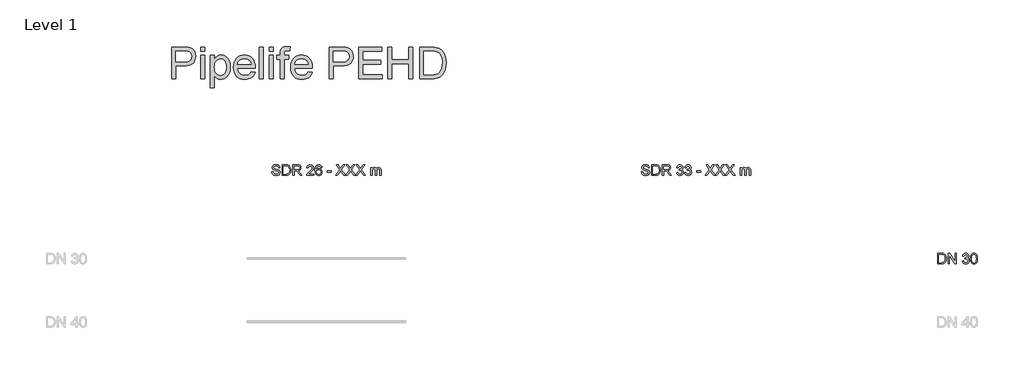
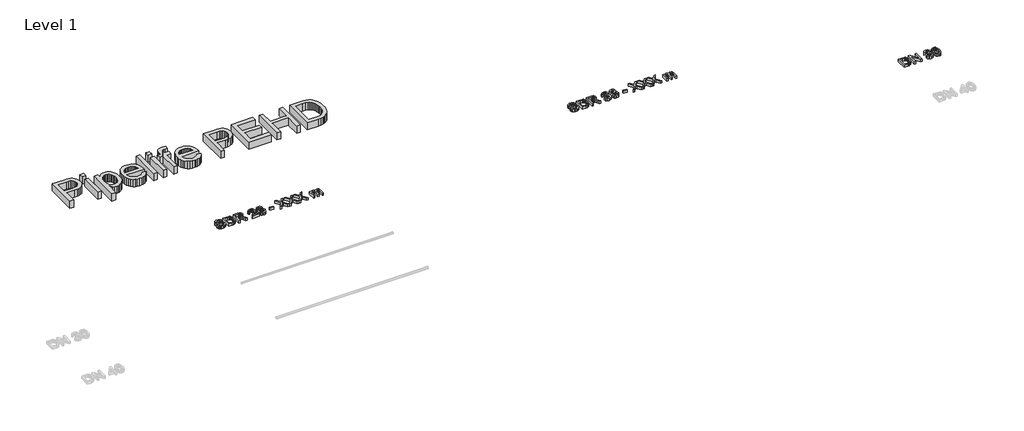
# One storey, part 4 of 4: 4 proxies.
"""IFC4 building model written with IfcOpenShell, lengths in millimetres."""

from ifc_helpers import new_model, si_unit, origin, origin_with_axes, place, context, project, spatial, polyline, outline, extrude, element, save

model = new_model("IFC4")

# Units and contexts
model_context = context("Model", 3, world=origin())
ifc_project = project(units=[si_unit("LENGTHUNIT", "METRE", prefix="MILLI")], contexts=[model_context])

# Site, building, storey
site = spatial("IfcSite", under=ifc_project)
building = spatial("IfcBuilding", under=site)
storey = spatial("IfcBuildingStorey", under=building, Name="Level 1", Elevation=0.0)

# Proxies
placement = place(None, origin())
element("IfcBuildingElementProxy", 1, Name="200mm Arial", ObjectType="200mm Arial", at=placement, inside=storey, context=model_context, shape_type="SweptSolid", body=[
    extrude(outline(polyline([(-15070.1924535, 2231.0128426), (-15045.0783759, 2231.0128426), (-15036.984972, 2205.8742396), (-15028.85478, 2196.983758), (-15017.2174462, 2189.9817374), (-15002.9926757, 2185.4383947), (-14987.1001735, 2183.9239472), (-14960.8579245, 2188.5102094), (-14943.9108273, 2201.1162991), (-14938.3435464, 2217.9652945), (-14942.5128757, 2233.6370675), (-14948.8649715, 2239.8358791), (-14959.5826003, 2245.0414093), (-14996.1500706, 2254.6308667), (-15035.5134441, 2267.0162272), (-15048.0153005, 2275.4652503), (-15056.8751253, 2285.7046325), (-15062.1542319, 2297.5136446), (-15063.9139341, 2310.6715573), (-15061.737299, 2325.3807057), (-15055.2073935, 2339.0965728), (-15044.4958961, 2350.7216438), (-15029.7744849, 2359.1584042), (-15012.1038864, 2364.2903581), (-14992.544827, 2366.0010093), (-14971.3548241, 2364.2106503), (-14952.8135716, 2358.8395732), (-14937.583257, 2349.9981425), (-14926.3260679, 2337.796723), (-14919.2014199, 2322.9956041), (-14916.3687286, 2306.3550752), (-14941.4828061, 2306.3550752), (-14946.0935938, 2321.3401351), (-14955.7075766, 2332.1558658), (-14970.7294247, 2338.7041653), (-14991.5638084, 2340.8869318), (-15012.8887014, 2338.7286908), (-15027.518142, 2332.2539676), (-15035.9794279, 2322.725824), (-15038.7998566, 2311.4073212), (-15036.8010311, 2301.7565502), (-15030.8045545, 2293.9942401), (-15016.628835, 2287.0535332), (-14989.7979748, 2279.9656734), (-14945.3578298, 2267.3595837), (-14931.0410888, 2258.2483729), (-14921.0530926, 2247.0034466), (-14915.1853748, 2233.7474321), (-14913.2294689, 2218.6029566), (-14915.4796804, 2203.121256), (-14922.230315, 2188.5592603), (-14933.2054612, 2176.026747), (-14948.1292075, 2166.6334934), (-14966.0757175, 2160.7657756), (-14986.1191548, 2158.8098696), (-15010.724329, 2160.9190598), (-15030.9762328, 2167.2466301), (-15047.1078583, 2177.8171061), (-15059.3521974, 2192.6550132), (-15067.2126093, 2210.7302819), (-15070.1924535, 2231.0128426)])), origin_with_axes(), (0.0, 0.0, 1.0), 50.0),
    extrude(outline(polyline([(-14875.5583526, 2161.9491293), (-14875.5583526, 2362.8617496), (-14806.2493847, 2362.8617496), (-14770.3931529, 2359.9677446), (-14754.3780234, 2354.388201), (-14740.8644914, 2345.5958213), (-14726.9708147, 2330.2919303), (-14717.074789, 2311.2601685), (-14711.1518889, 2288.8684177), (-14709.1775889, 2263.48456), (-14714.5241405, 2222.9439641), (-14728.2584017, 2193.6850828), (-14746.6034505, 2175.4626613), (-14770.6138821, 2165.3826946), (-14802.9139213, 2161.9491293), (-14875.5583526, 2161.9491293)]), holes=[polyline([(-14850.444275, 2187.0632069), (-14806.00413, 2187.0632069), (-14773.6795654, 2190.6929759), (-14755.0402109, 2200.9446208), (-14746.3152763, 2211.8155338), (-14739.7608454, 2225.8870201), (-14735.6589612, 2243.2203934), (-14734.2916664, 2263.8769675), (-14736.9710736, 2291.2473879), (-14745.0092952, 2311.4563722), (-14756.8857523, 2325.3377861), (-14771.0798659, 2333.7254956), (-14806.6908431, 2337.7476721), (-14850.444275, 2337.7476721), (-14850.444275, 2187.0632069)])]), origin_with_axes(), (0.0, 0.0, 1.0), 50.0),
    extrude(outline(polyline([(-14674.6457323, 2161.9491293), (-14674.6457323, 2362.8617496), (-14588.0708361, 2362.8617496), (-14564.8022999, 2361.5067176), (-14547.8735967, 2357.4416216), (-14535.500499, 2349.9368289), (-14525.8987789, 2338.2627069), (-14519.7367555, 2323.7865504), (-14517.6827477, 2307.8756541), (-14521.0856561, 2288.0836028), (-14531.2943815, 2271.6760658), (-14548.6154921, 2259.6463245), (-14573.3555563, 2252.9876604), (-14559.0817348, 2242.2455062), (-14538.7255978, 2216.3956646), (-14505.2238108, 2161.9491293), (-14534.4091157, 2161.9491293), (-14560.5532628, 2203.5933712), (-14579.4378719, 2231.1599954), (-14592.7061492, 2244.183018), (-14604.6500513, 2248.9654839), (-14619.2181783, 2249.8484007), (-14649.5316547, 2249.8484007), (-14649.5316547, 2161.9491293), (-14674.6457323, 2161.9491293)]), holes=[polyline([(-14649.5316547, 2274.9624783), (-14593.3192859, 2274.9624783), (-14564.6490157, 2278.5186709), (-14555.2189739, 2283.1417213), (-14548.3641061, 2289.8984873), (-14542.7968252, 2306.9436864), (-14545.4517069, 2319.1941568), (-14553.4163521, 2329.065657), (-14567.1199564, 2335.5771683), (-14586.9917155, 2337.7476721), (-14649.5316547, 2337.7476721), (-14649.5316547, 2274.9624783)])]), origin_with_axes(), (0.0, 0.0, 1.0), 50.0),
    extrude(outline(polyline([(-14275.9597514, 2187.0632069), (-14275.9597514, 2161.9491293), (-14407.8086584, 2161.9491293), (-14405.1108571, 2179.2641086), (-14389.8560171, 2205.9232905), (-14358.4143692, 2235.0350191), (-14315.0533447, 2276.8754646), (-14306.9231526, 2291.2964388), (-14304.2130886, 2305.3250056), (-14306.7698685, 2317.9004385), (-14314.4402081, 2328.3544185), (-14326.230826, 2335.3993587), (-14341.1484409, 2337.7476721), (-14356.8140825, 2335.454541), (-14368.9848452, 2328.5751477), (-14376.8391258, 2317.6490524), (-14379.5553212, 2303.2158155), (-14404.6693987, 2306.3550752), (-14398.5809517, 2330.6475496), (-14385.4169077, 2348.3917245), (-14365.8639796, 2359.2442434), (-14340.6088806, 2362.8617496), (-14315.1698407, 2358.8395732), (-14295.6537008, 2346.7730437), (-14283.2376835, 2328.746826), (-14279.0990111, 2306.8455845), (-14283.5626459, 2283.0313567), (-14298.4005531, 2258.4077885), (-14334.3794122, 2223.9985592), (-14363.2704115, 2199.8409748), (-14374.601177, 2187.0632069), (-14275.9597514, 2187.0632069)])), origin_with_axes(), (0.0, 0.0, 1.0), 50.0),
    extrude(outline(polyline([(-14122.1360264, 2309.4943349), (-14147.250104, 2306.3550752), (-14156.7659849, 2327.2998234), (-14168.158064, 2335.1357099), (-14181.9291134, 2337.7476721), (-14204.5906443, 2331.6653565), (-14214.0268175, 2322.057505), (-14221.7339453, 2308.8321473), (-14226.9394755, 2290.1253478), (-14228.870856, 2264.0731712), (-14218.7970207, 2275.8270009), (-14206.7243599, 2284.1104772), (-14193.3273239, 2289.0217018), (-14179.280363, 2290.6587767), (-14156.0792719, 2286.1828791), (-14136.6060516, 2272.7551863), (-14123.399088, 2252.2396337), (-14118.9967668, 2226.5001568), (-14121.0691687, 2208.5168586), (-14127.2863744, 2191.8456728), (-14137.1333491, 2177.7067415), (-14150.0950581, 2167.3202065), (-14165.5828901, 2160.9374539), (-14183.0082339, 2158.8098696), (-14211.5006944, 2164.4507269), (-14234.1928822, 2181.3732987), (-14242.8519046, 2194.4821604), (-14249.0369207, 2211.2453167), (-14253.9849335, 2255.7345126), (-14248.4912291, 2305.7542013), (-14241.6240985, 2324.8319484), (-14232.0101157, 2339.9549641), (-14221.5898582, 2349.9766828), (-14209.5080003, 2357.1350532), (-14180.3594835, 2362.8617496), (-14158.323352, 2359.3178198), (-14140.677279, 2348.6860301), (-14128.316444, 2331.8002465), (-14122.1360264, 2309.4943349)]), holes=[polyline([(-14228.870856, 2226.8925642), (-14223.0583205, 2205.1384756), (-14207.6072767, 2189.3440752), (-14184.9702712, 2183.9239472), (-14168.3971873, 2186.7321131), (-14155.3680333, 2195.1566108), (-14146.9251416, 2208.4003626), (-14144.1108443, 2225.6662909), (-14146.8883534, 2242.2393748), (-14155.2208805, 2254.8761213), (-14168.4707637, 2262.8775547), (-14186.0003408, 2265.5446992), (-14202.5488992, 2262.8775547), (-14216.3873936, 2254.8761213), (-14225.7499904, 2242.5459431), (-14228.870856, 2226.8925642)])]), origin_with_axes(), (0.0, 0.0, 1.0), 50.0),
    extrude(outline(polyline([(-14024.818976, 2221.5950635), (-14024.818976, 2246.709141), (-13946.3374837, 2246.709141), (-13946.3374837, 2221.5950635), (-14024.818976, 2221.5950635)])), origin_with_axes(), (0.0, 0.0, 1.0), 50.0),
    extrude(outline(polyline([(-13858.4382123, 2161.9491293), (-13780.9867896, 2271.4308111), (-13845.8811735, 2362.8617496), (-13815.7639009, 2362.8617496), (-13779.220956, 2311.4073212), (-13766.9091719, 2291.3454898), (-13752.4881977, 2311.7506778), (-13716.3376603, 2362.8617496), (-13685.7789292, 2362.8617496), (-13750.6733132, 2271.1365055), (-13673.2218905, 2161.9491293), (-13703.3391631, 2161.9491293), (-13754.9407443, 2234.7407135), (-13765.6828986, 2249.8484007), (-13777.5041734, 2233.2691855), (-13827.8794812, 2161.9491293), (-13858.4382123, 2161.9491293)])), origin_with_axes(), (0.0, 0.0, 1.0), 50.0),
    extrude(outline(polyline([(-13670.0826308, 2161.9491293), (-13592.6312081, 2271.4308111), (-13657.525592, 2362.8617496), (-13627.4083193, 2362.8617496), (-13590.8653745, 2311.4073212), (-13578.5535904, 2291.3454898), (-13564.1326162, 2311.7506778), (-13527.9820788, 2362.8617496), (-13497.4233477, 2362.8617496), (-13562.3177316, 2271.1365055), (-13484.8663089, 2161.9491293), (-13514.9835816, 2161.9491293), (-13566.5851628, 2234.7407135), (-13577.3273171, 2249.8484007), (-13589.1485918, 2233.2691855), (-13639.5238997, 2161.9491293), (-13670.0826308, 2161.9491293)])), origin_with_axes(), (0.0, 0.0, 1.0), 50.0),
    extrude(outline(polyline([(-13481.7270492, 2161.9491293), (-13404.2756265, 2271.4308111), (-13469.1700105, 2362.8617496), (-13439.0527378, 2362.8617496), (-13402.5097929, 2311.4073212), (-13390.1980088, 2291.3454898), (-13375.7770346, 2311.7506778), (-13339.6264972, 2362.8617496), (-13309.0677662, 2362.8617496), (-13373.9621501, 2271.1365055), (-13296.5107274, 2161.9491293), (-13326.6280001, 2161.9491293), (-13378.2295813, 2234.7407135), (-13388.9717355, 2249.8484007), (-13400.7930103, 2233.2691855), (-13451.1683182, 2161.9491293), (-13481.7270492, 2161.9491293)])), origin_with_axes(), (0.0, 0.0, 1.0), 50.0),
    extrude(outline(polyline([(-13196.0544173, 2161.9491293), (-13196.0544173, 2309.4943349), (-13170.9403397, 2309.4943349), (-13170.9403397, 2285.2141232), (-13163.3864961, 2296.367079), (-13153.6744114, 2305.1042764), (-13142.1351795, 2310.751265), (-13129.0998941, 2312.6335946), (-13115.132641, 2310.7144768), (-13103.9367657, 2304.9571236), (-13095.5735816, 2295.7416796), (-13090.1044026, 2283.4482896), (-13080.9502723, 2296.2168605), (-13070.508555, 2305.3372683), (-13058.7792508, 2310.809513), (-13045.7623595, 2312.6335946), (-13026.8838818, 2309.5985681), (-13012.9227601, 2300.4934887), (-13004.2959273, 2285.0731018), (-13001.4203163, 2263.0921525), (-13001.4203163, 2161.9491293), (-13026.5343939, 2161.9491293), (-13026.5343939, 2252.3009474), (-13028.8643132, 2273.2702211), (-13037.3010736, 2283.5954424), (-13051.6484714, 2287.519517), (-13065.2539739, 2285.0056567), (-13076.345616, 2277.4640758), (-13083.72165, 2264.3797395), (-13086.180328, 2245.237613), (-13086.180328, 2161.9491293), (-13111.2944056, 2161.9491293), (-13111.2944056, 2255.0968505), (-13112.7475394, 2269.2970955), (-13117.1069411, 2279.4261131), (-13124.7772807, 2285.4961661), (-13136.1632284, 2287.519517), (-13154.7535319, 2282.1239144), (-13162.1111718, 2275.4775131), (-13167.114367, 2266.3295141), (-13170.9403397, 2236.3593942), (-13170.9403397, 2161.9491293), (-13196.0544173, 2161.9491293)])), origin_with_axes(), (0.0, 0.0, 1.0), 50.0),
])
element("IfcBuildingElementProxy", 2, Name="200mm Arial", ObjectType="200mm Arial", at=placement, inside=storey, context=model_context, shape_type="SweptSolid", body=[
    extrude(outline(polyline([(-8070.1924535, 2231.0128426), (-8045.0783759, 2231.0128426), (-8036.984972, 2205.8742396), (-8028.85478, 2196.983758), (-8017.2174462, 2189.9817374), (-8002.9926757, 2185.4383947), (-7987.1001735, 2183.9239472), (-7960.8579245, 2188.5102094), (-7943.9108273, 2201.1162991), (-7938.3435464, 2217.9652945), (-7942.5128757, 2233.6370675), (-7948.8649715, 2239.8358791), (-7959.5826003, 2245.0414093), (-7996.1500706, 2254.6308667), (-8035.5134441, 2267.0162272), (-8048.0153005, 2275.4652503), (-8056.8751253, 2285.7046325), (-8062.1542319, 2297.5136446), (-8063.9139341, 2310.6715573), (-8061.737299, 2325.3807057), (-8055.2073935, 2339.0965728), (-8044.4958961, 2350.7216438), (-8029.7744849, 2359.1584042), (-8012.1038864, 2364.2903581), (-7992.544827, 2366.0010093), (-7971.3548241, 2364.2106503), (-7952.8135716, 2358.8395732), (-7937.583257, 2349.9981425), (-7926.3260679, 2337.796723), (-7919.2014199, 2322.9956041), (-7916.3687286, 2306.3550752), (-7941.4828061, 2306.3550752), (-7946.0935938, 2321.3401351), (-7955.7075766, 2332.1558658), (-7970.7294247, 2338.7041653), (-7991.5638084, 2340.8869318), (-8012.8887014, 2338.7286908), (-8027.518142, 2332.2539676), (-8035.9794279, 2322.725824), (-8038.7998566, 2311.4073212), (-8036.8010311, 2301.7565502), (-8030.8045545, 2293.9942401), (-8016.628835, 2287.0535332), (-7989.7979748, 2279.9656734), (-7945.3578298, 2267.3595837), (-7931.0410888, 2258.2483729), (-7921.0530926, 2247.0034466), (-7915.1853748, 2233.7474321), (-7913.2294689, 2218.6029566), (-7915.4796804, 2203.121256), (-7922.230315, 2188.5592603), (-7933.2054612, 2176.026747), (-7948.1292075, 2166.6334934), (-7966.0757175, 2160.7657756), (-7986.1191548, 2158.8098696), (-8010.724329, 2160.9190598), (-8030.9762328, 2167.2466301), (-8047.1078583, 2177.8171061), (-8059.3521974, 2192.6550132), (-8067.2126093, 2210.7302819), (-8070.1924535, 2231.0128426)])), origin_with_axes(), (0.0, 0.0, 1.0), 50.0),
    extrude(outline(polyline([(-7875.5583526, 2161.9491293), (-7875.5583526, 2362.8617496), (-7806.2493847, 2362.8617496), (-7770.3931529, 2359.9677446), (-7754.3780234, 2354.388201), (-7740.8644914, 2345.5958213), (-7726.9708147, 2330.2919303), (-7717.074789, 2311.2601685), (-7711.1518889, 2288.8684177), (-7709.1775889, 2263.48456), (-7714.5241405, 2222.9439641), (-7728.2584017, 2193.6850828), (-7746.6034505, 2175.4626613), (-7770.6138821, 2165.3826946), (-7802.9139213, 2161.9491293), (-7875.5583526, 2161.9491293)]), holes=[polyline([(-7850.444275, 2187.0632069), (-7806.00413, 2187.0632069), (-7773.6795654, 2190.6929759), (-7755.0402109, 2200.9446208), (-7746.3152763, 2211.8155338), (-7739.7608454, 2225.8870201), (-7735.6589612, 2243.2203934), (-7734.2916664, 2263.8769675), (-7736.9710736, 2291.2473879), (-7745.0092952, 2311.4563722), (-7756.8857523, 2325.3377861), (-7771.0798659, 2333.7254956), (-7806.6908431, 2337.7476721), (-7850.444275, 2337.7476721), (-7850.444275, 2187.0632069)])]), origin_with_axes(), (0.0, 0.0, 1.0), 50.0),
    extrude(outline(polyline([(-7674.6457323, 2161.9491293), (-7674.6457323, 2362.8617496), (-7588.0708361, 2362.8617496), (-7564.8022999, 2361.5067176), (-7547.8735967, 2357.4416216), (-7535.500499, 2349.9368289), (-7525.8987789, 2338.2627069), (-7519.7367555, 2323.7865504), (-7517.6827477, 2307.8756541), (-7521.0856561, 2288.0836028), (-7531.2943815, 2271.6760658), (-7548.6154921, 2259.6463245), (-7573.3555563, 2252.9876604), (-7559.0817348, 2242.2455062), (-7538.7255978, 2216.3956646), (-7505.2238108, 2161.9491293), (-7534.4091157, 2161.9491293), (-7560.5532628, 2203.5933712), (-7579.4378719, 2231.1599954), (-7592.7061492, 2244.183018), (-7604.6500513, 2248.9654839), (-7619.2181783, 2249.8484007), (-7649.5316547, 2249.8484007), (-7649.5316547, 2161.9491293), (-7674.6457323, 2161.9491293)]), holes=[polyline([(-7649.5316547, 2274.9624783), (-7593.3192859, 2274.9624783), (-7564.6490157, 2278.5186709), (-7555.2189739, 2283.1417213), (-7548.3641061, 2289.8984873), (-7542.7968252, 2306.9436864), (-7545.4517069, 2319.1941568), (-7553.4163521, 2329.065657), (-7567.1199564, 2335.5771683), (-7586.9917155, 2337.7476721), (-7649.5316547, 2337.7476721), (-7649.5316547, 2274.9624783)])]), origin_with_axes(), (0.0, 0.0, 1.0), 50.0),
    extrude(outline(polyline([(-7404.6693987, 2215.3165441), (-7379.5553212, 2218.4558038), (-7373.932858, 2202.6736662), (-7365.6984327, 2192.0173511), (-7354.447375, 2185.9472982), (-7339.7750148, 2183.9239472), (-7322.5581374, 2186.7075876), (-7309.2653347, 2195.0585089), (-7300.7672606, 2207.5174458), (-7297.9345692, 2222.6251331), (-7300.7427351, 2236.9663995), (-7309.1672328, 2248.5976019), (-7321.9204753, 2256.3047297), (-7337.7148756, 2258.8737723), (-7355.3241605, 2256.1269201), (-7352.5282573, 2281.2409976), (-7348.5060808, 2280.946692), (-7333.4597072, 2282.7493138), (-7320.0074889, 2288.1571792), (-7310.5161334, 2297.3051781), (-7307.3523483, 2310.3282007), (-7309.6454794, 2321.1745882), (-7316.5248727, 2329.9730993), (-7327.0217723, 2335.8040289), (-7340.1674223, 2337.7476721), (-7353.3375977, 2335.7856348), (-7364.1042774, 2329.8995229), (-7371.9646894, 2320.0893363), (-7376.4160615, 2306.3550752), (-7401.530139, 2309.4943349), (-7394.1357109, 2332.0455012), (-7380.9777982, 2348.8822338), (-7362.976106, 2359.3668707), (-7341.050339, 2362.8617496), (-7325.2620701, 2361.1388356), (-7310.7613881, 2355.9700936), (-7298.5354431, 2347.815376), (-7289.5713852, 2337.1345354), (-7284.0715494, 2324.8288827), (-7282.2382707, 2311.7997287), (-7283.9795789, 2299.6596229), (-7289.2035032, 2288.6476885), (-7297.8364673, 2279.2666976), (-7309.8048949, 2272.0194223), (-7294.084071, 2265.6673265), (-7282.4344745, 2254.8515959), (-7275.2239874, 2240.1608415), (-7272.8204917, 2222.1836747), (-7277.6274831, 2197.7072593), (-7292.0484573, 2177.2530203), (-7313.8148087, 2163.4206573), (-7340.6579316, 2158.8098696), (-7364.9381433, 2162.746207), (-7384.7056691, 2174.555219), (-7398.452193, 2192.618225), (-7404.6693987, 2215.3165441)])), origin_with_axes(), (0.0, 0.0, 1.0), 50.0),
    extrude(outline(polyline([(-7250.8456738, 2215.3165441), (-7225.7315963, 2218.4558038), (-7220.1091331, 2202.6736662), (-7211.8747078, 2192.0173511), (-7200.6236501, 2185.9472982), (-7185.9512899, 2183.9239472), (-7168.7344125, 2186.7075876), (-7155.4416097, 2195.0585089), (-7146.9435357, 2207.5174458), (-7144.1108443, 2222.6251331), (-7146.9190102, 2236.9663995), (-7155.3435079, 2248.5976019), (-7168.0967504, 2256.3047297), (-7183.8911507, 2258.8737723), (-7201.5004355, 2256.1269201), (-7198.7045324, 2281.2409976), (-7194.6823559, 2280.946692), (-7179.6359823, 2282.7493138), (-7166.183764, 2288.1571792), (-7156.6924085, 2297.3051781), (-7153.5286234, 2310.3282007), (-7155.8217545, 2321.1745882), (-7162.7011478, 2329.9730993), (-7173.1980474, 2335.8040289), (-7186.3436973, 2337.7476721), (-7199.5138728, 2335.7856348), (-7210.2805525, 2329.8995229), (-7218.1409645, 2320.0893363), (-7222.5923366, 2306.3550752), (-7247.7064141, 2309.4943349), (-7240.311986, 2332.0455012), (-7227.1540733, 2348.8822338), (-7209.152381, 2359.3668707), (-7187.2266141, 2362.8617496), (-7171.4383452, 2361.1388356), (-7156.9376632, 2355.9700936), (-7144.7117182, 2347.815376), (-7135.7476603, 2337.1345354), (-7130.2478244, 2324.8288827), (-7128.4145458, 2311.7997287), (-7130.1558539, 2299.6596229), (-7135.3797783, 2288.6476885), (-7144.0127424, 2279.2666976), (-7155.98117, 2272.0194223), (-7140.2603461, 2265.6673265), (-7128.6107496, 2254.8515959), (-7121.4002625, 2240.1608415), (-7118.9967668, 2222.1836747), (-7123.8037582, 2197.7072593), (-7138.2247324, 2177.2530203), (-7159.9910837, 2163.4206573), (-7186.8342067, 2158.8098696), (-7211.1144183, 2162.746207), (-7230.8819442, 2174.555219), (-7244.6284681, 2192.618225), (-7250.8456738, 2215.3165441)])), origin_with_axes(), (0.0, 0.0, 1.0), 50.0),
    extrude(outline(polyline([(-7024.818976, 2221.5950635), (-7024.818976, 2246.709141), (-6946.3374837, 2246.709141), (-6946.3374837, 2221.5950635), (-7024.818976, 2221.5950635)])), origin_with_axes(), (0.0, 0.0, 1.0), 50.0),
    extrude(outline(polyline([(-6858.4382123, 2161.9491293), (-6780.9867896, 2271.4308111), (-6845.8811735, 2362.8617496), (-6815.7639009, 2362.8617496), (-6779.220956, 2311.4073212), (-6766.9091719, 2291.3454898), (-6752.4881977, 2311.7506778), (-6716.3376603, 2362.8617496), (-6685.7789292, 2362.8617496), (-6750.6733132, 2271.1365055), (-6673.2218905, 2161.9491293), (-6703.3391631, 2161.9491293), (-6754.9407443, 2234.7407135), (-6765.6828986, 2249.8484007), (-6777.5041734, 2233.2691855), (-6827.8794812, 2161.9491293), (-6858.4382123, 2161.9491293)])), origin_with_axes(), (0.0, 0.0, 1.0), 50.0),
    extrude(outline(polyline([(-6670.0826308, 2161.9491293), (-6592.6312081, 2271.4308111), (-6657.525592, 2362.8617496), (-6627.4083193, 2362.8617496), (-6590.8653745, 2311.4073212), (-6578.5535904, 2291.3454898), (-6564.1326162, 2311.7506778), (-6527.9820788, 2362.8617496), (-6497.4233477, 2362.8617496), (-6562.3177316, 2271.1365055), (-6484.8663089, 2161.9491293), (-6514.9835816, 2161.9491293), (-6566.5851628, 2234.7407135), (-6577.3273171, 2249.8484007), (-6589.1485918, 2233.2691855), (-6639.5238997, 2161.9491293), (-6670.0826308, 2161.9491293)])), origin_with_axes(), (0.0, 0.0, 1.0), 50.0),
    extrude(outline(polyline([(-6481.7270492, 2161.9491293), (-6404.2756265, 2271.4308111), (-6469.1700105, 2362.8617496), (-6439.0527378, 2362.8617496), (-6402.5097929, 2311.4073212), (-6390.1980088, 2291.3454898), (-6375.7770346, 2311.7506778), (-6339.6264972, 2362.8617496), (-6309.0677662, 2362.8617496), (-6373.9621501, 2271.1365055), (-6296.5107274, 2161.9491293), (-6326.6280001, 2161.9491293), (-6378.2295813, 2234.7407135), (-6388.9717355, 2249.8484007), (-6400.7930103, 2233.2691855), (-6451.1683182, 2161.9491293), (-6481.7270492, 2161.9491293)])), origin_with_axes(), (0.0, 0.0, 1.0), 50.0),
    extrude(outline(polyline([(-6196.0544173, 2161.9491293), (-6196.0544173, 2309.4943349), (-6170.9403397, 2309.4943349), (-6170.9403397, 2285.2141232), (-6163.3864961, 2296.367079), (-6153.6744114, 2305.1042764), (-6142.1351795, 2310.751265), (-6129.0998941, 2312.6335946), (-6115.132641, 2310.7144768), (-6103.9367657, 2304.9571236), (-6095.5735816, 2295.7416796), (-6090.1044026, 2283.4482896), (-6080.9502723, 2296.2168605), (-6070.508555, 2305.3372683), (-6058.7792508, 2310.809513), (-6045.7623595, 2312.6335946), (-6026.8838818, 2309.5985681), (-6012.9227601, 2300.4934887), (-6004.2959273, 2285.0731018), (-6001.4203163, 2263.0921525), (-6001.4203163, 2161.9491293), (-6026.5343939, 2161.9491293), (-6026.5343939, 2252.3009474), (-6028.8643132, 2273.2702211), (-6037.3010736, 2283.5954424), (-6051.6484714, 2287.519517), (-6065.2539739, 2285.0056567), (-6076.345616, 2277.4640758), (-6083.72165, 2264.3797395), (-6086.180328, 2245.237613), (-6086.180328, 2161.9491293), (-6111.2944056, 2161.9491293), (-6111.2944056, 2255.0968505), (-6112.7475394, 2269.2970955), (-6117.1069411, 2279.4261131), (-6124.7772807, 2285.4961661), (-6136.1632284, 2287.519517), (-6154.7535319, 2282.1239144), (-6162.1111718, 2275.4775131), (-6167.114367, 2266.3295141), (-6170.9403397, 2236.3593942), (-6170.9403397, 2161.9491293), (-6196.0544173, 2161.9491293)])), origin_with_axes(), (0.0, 0.0, 1.0), 50.0),
])
element("IfcBuildingElementProxy", 3, Name="200mm Arial", ObjectType="200mm Arial", at=placement, inside=storey, context=model_context, shape_type="SweptSolid", body=[
    extrude(outline(polyline([(-2460.6923074, 486.050427), (-2460.6923074, 686.9630473), (-2391.3833395, 686.9630473), (-2355.5271077, 684.0690423), (-2339.5119782, 678.4894987), (-2325.9984462, 669.697119), (-2312.1047695, 654.393228), (-2302.2087438, 635.3614662), (-2296.2858437, 612.9697154), (-2294.3115437, 587.5858577), (-2299.6580953, 547.0452618), (-2313.3923565, 517.7863805), (-2331.7374053, 499.563959), (-2355.7478369, 489.4839923), (-2388.0478761, 486.050427), (-2460.6923074, 486.050427)]), holes=[polyline([(-2435.5782298, 511.1645046), (-2391.1380848, 511.1645046), (-2358.8135202, 514.7942736), (-2340.1741658, 525.0459185), (-2331.4492311, 535.9168315), (-2324.8948002, 549.9883178), (-2320.792916, 567.3216911), (-2319.4256212, 587.9782652), (-2322.1050284, 615.3486856), (-2330.14325, 635.5576699), (-2342.0197071, 649.4390838), (-2356.2138207, 657.8267933), (-2391.8247979, 661.8489698), (-2435.5782298, 661.8489698), (-2435.5782298, 511.1645046)])]), origin_with_axes(), (0.0, 0.0, 1.0), 50.0),
    extrude(outline(polyline([(-2259.7796871, 486.050427), (-2259.7796871, 686.9630473), (-2232.899776, 686.9630473), (-2127.93078, 527.7927708), (-2127.93078, 686.9630473), (-2102.8167025, 686.9630473), (-2102.8167025, 486.050427), (-2129.6966136, 486.050427), (-2234.6656095, 645.2697546), (-2234.6656095, 486.050427), (-2259.7796871, 486.050427)])), origin_with_axes(), (0.0, 0.0, 1.0), 50.0),
    extrude(outline(polyline([(-1989.8033535, 539.4178418), (-1964.689276, 542.5571015), (-1959.0668128, 526.7749639), (-1950.8323875, 516.1186488), (-1939.5813298, 510.0485959), (-1924.9089696, 508.0252449), (-1907.6920922, 510.8088853), (-1894.3992895, 519.1598066), (-1885.9012154, 531.6187435), (-1883.068524, 546.7264308), (-1885.8766899, 561.0676972), (-1894.3011876, 572.6988996), (-1907.0544301, 580.4060274), (-1922.8488304, 582.97507), (-1940.4581153, 580.2282178), (-1937.6622121, 605.3422953), (-1933.6400356, 605.0479898), (-1918.593662, 606.8506115), (-1905.1414437, 612.2584769), (-1895.6500882, 621.4064758), (-1892.4863031, 634.4294984), (-1894.7794342, 645.2758859), (-1901.6588275, 654.074397), (-1912.1557271, 659.9053266), (-1925.3013771, 661.8489698), (-1938.4715525, 659.8869325), (-1949.2382322, 654.0008206), (-1957.0986442, 644.190634), (-1961.5500163, 630.4563729), (-1986.6640939, 633.5956326), (-1979.2696657, 656.1467989), (-1966.1117531, 672.9835315), (-1948.1100608, 683.4681684), (-1926.1842938, 686.9630473), (-1910.3960249, 685.2401333), (-1895.8953429, 680.0713913), (-1883.6693979, 671.9166737), (-1874.70534, 661.2358331), (-1869.2055042, 648.9301804), (-1867.3722255, 635.9010264), (-1869.1135337, 623.7609206), (-1874.337458, 612.7489862), (-1882.9704221, 603.3679953), (-1894.9388497, 596.12072), (-1879.2180258, 589.7686242), (-1867.5684293, 578.9528936), (-1860.3579422, 564.2621392), (-1857.9544465, 546.2849724), (-1862.7614379, 521.808557), (-1877.1824121, 501.354318), (-1898.9487635, 487.521955), (-1925.7918864, 482.9111674), (-1950.0720981, 486.8475047), (-1969.8396239, 498.6565167), (-1983.5861478, 516.7195227), (-1989.8033535, 539.4178418)])), origin_with_axes(), (0.0, 0.0, 1.0), 50.0),
    extrude(outline(polyline([(-1835.9796286, 584.8880564), (-1834.1340873, 617.0470742), (-1828.5974633, 642.6945806), (-1819.4249388, 662.2229832), (-1806.6716963, 676.0246894), (-1790.2457653, 684.2284578), (-1770.0551751, 686.9630473), (-1754.5796058, 685.3443666), (-1740.7227173, 680.4883242), (-1729.1344345, 672.5849927), (-1720.4646821, 661.8244443), (-1708.6924583, 632.0995791), (-1704.1307216, 584.8880564), (-1705.9578688, 552.9129797), (-1711.4393105, 527.3267869), (-1720.5566526, 507.7799902), (-1733.291501, 493.9231017), (-1749.7542203, 485.664151), (-1770.0551751, 482.9111674), (-1796.1502713, 487.6936333), (-1815.9668481, 502.0410311), (-1824.7224396, 517.1701782), (-1830.9764335, 536.0210647), (-1835.9796286, 584.8880564)]), holes=[polyline([(-1810.8655511, 584.9371073), (-1807.9224951, 545.4327124), (-1799.0933272, 522.5688464), (-1785.9476773, 511.6611453), (-1770.0551751, 508.0252449), (-1754.1626729, 511.673408), (-1741.0170229, 522.6178974), (-1732.1878551, 545.4940261), (-1729.2447991, 584.9371073), (-1732.0897532, 623.5524541), (-1740.6246155, 646.5941297), (-1753.74574, 658.0352598), (-1770.3494807, 661.8489698), (-1786.0703046, 658.4889809), (-1798.7009198, 648.4090143), (-1807.8243933, 623.9325988), (-1810.8655511, 584.9371073)])]), origin_with_axes(), (0.0, 0.0, 1.0), 50.0),
])
element("IfcBuildingElementProxy", 4, Name="600mm Arial", ObjectType="600mm Arial", at=placement, inside=storey, context=model_context, shape_type="SweptSolid", body=[
    extrude(outline(polyline([(-16966.7426717, 3990.4626098), (-16966.7426717, 4593.2004707), (-16743.3647242, 4593.2004707), (-16691.3462101, 4591.7657309), (-16653.3072118, 4587.4615116), (-16613.152892, 4576.7377514), (-16580.0986947, 4559.2817508), (-16553.4824324, 4534.3025633), (-16532.6419174, 4501.0092427), (-16519.1774363, 4461.7378398), (-16514.689276, 4418.824405), (-16517.7197039, 4381.8246734), (-16526.8109877, 4347.7863917), (-16541.9631274, 4316.7095602), (-16563.176123, 4288.5941787), (-16592.2985814, 4265.2888543), (-16631.1791098, 4248.642194), (-16679.8177081, 4238.6541979), (-16738.2143763, 4235.3248658), (-16891.4004391, 4235.3248658), (-16891.4004391, 3990.4626098), (-16966.7426717, 3990.4626098)]), holes=[polyline([(-16891.4004391, 4310.6670984), (-16733.7997923, 4310.6670984), (-16697.5634158, 4312.3961438), (-16666.992422, 4317.5832799), (-16642.0868109, 4326.2285068), (-16622.8465826, 4338.3318245), (-16608.4899877, 4353.5713361), (-16598.2352771, 4371.625145), (-16592.0824507, 4392.4932512), (-16590.0315086, 4416.1756547), (-16594.8691569, 4450.0207982), (-16609.3821016, 4478.568441), (-16631.767721, 4500.0527496), (-16660.2233933, 4512.7078902), (-16689.2860709, 4516.5706511), (-16735.5656259, 4517.8582381), (-16891.4004391, 4517.8582381), (-16891.4004391, 4310.6670984)])]), origin_with_axes(), (0.0, 0.0, 1.0), 150.0),
    extrude(outline(polyline([(-16420.5114852, 3990.4626098), (-16420.5114852, 4433.0982264), (-16345.1692526, 4433.0982264), (-16345.1692526, 3990.4626098), (-16420.5114852, 3990.4626098)])), origin_with_axes(), (0.0, 0.0, 1.0), 150.0),
    extrude(outline(polyline([(-16420.5114852, 4517.8582381), (-16420.5114852, 4593.2004707), (-16345.1692526, 4593.2004707), (-16345.1692526, 4517.8582381), (-16420.5114852, 4517.8582381)])), origin_with_axes(), (0.0, 0.0, 1.0), 150.0),
    extrude(outline(polyline([(-16232.1559037, 3820.9425865), (-16232.1559037, 4433.0982264), (-16156.8136711, 4433.0982264), (-16156.8136711, 4359.2275218), (-16132.2391538, 4395.6662334), (-16104.7215806, 4421.6938846), (-16072.6422706, 4437.3104753), (-16034.3825431, 4442.5160055), (-16008.1065716, 4440.6949896), (-15983.4308868, 4435.231942), (-15960.3554886, 4426.1268626), (-15938.8803772, 4413.3797515), (-15919.4746019, 4397.3217024), (-15902.6072124, 4378.2838091), (-15888.2782087, 4356.2660717), (-15876.4875908, 4331.2684902), (-15860.7054532, 4275.7550971), (-15855.4447407, 4215.1649325), (-15861.3860349, 4150.730401), (-15868.8126526, 4121.0653166), (-15879.2099175, 4093.1016865), (-15892.4352753, 4067.570676), (-15908.3461716, 4045.2034507), (-15926.9426064, 4026.0000106), (-15948.2245798, 4009.9603556), (-15971.1482267, 3997.3098135), (-15994.6696817, 3988.273712), (-16018.788945, 3982.8520511), (-16043.5060166, 3981.0448308), (-16078.1421064, 3985.882479), (-16109.0625881, 4000.3954237), (-16135.5316977, 4022.3027965), (-16156.8136711, 4049.3237291), (-16156.8136711, 3820.9425865), (-16232.1559037, 3820.9425865)]), holes=[polyline([(-16156.8136711, 4208.248751), (-16154.7765246, 4171.9387981), (-16148.6650849, 4140.7056167), (-16138.4793522, 4114.5492068), (-16124.2193263, 4093.4695685), (-16107.0530327, 4077.2459725), (-16088.1484967, 4065.6576896), (-16067.5057182, 4058.7047199), (-16045.1246974, 4056.3870634), (-16022.4217797, 4058.7874934), (-16001.4019222, 4065.9887834), (-15982.0651249, 4077.9909335), (-15964.4113876, 4094.7939437), (-15949.7007063, 4116.6369371), (-15939.1930769, 4143.7590372), (-15932.8884992, 4176.1602439), (-15930.7869733, 4213.8405573), (-15932.8379154, 4249.8378105), (-15938.9907418, 4281.0158096), (-15949.2454524, 4307.3745546), (-15963.6020472, 4328.9140454), (-15980.8097276, 4345.6526762), (-15999.6176946, 4357.608841), (-16020.0259482, 4364.7825399), (-16042.0344886, 4367.1737729), (-16063.9740511, 4364.6307886), (-16084.6168295, 4357.0018357), (-16103.962824, 4344.2869143), (-16122.0120344, 4326.4860242), (-16137.2377504, 4303.8382889), (-16148.1132619, 4276.5828316), (-16154.6385688, 4244.7196523), (-16156.8136711, 4208.248751)])]), origin_with_axes(), (0.0, 0.0, 1.0), 150.0),
    extrude(outline(polyline([(-15460.7809362, 4122.3115169), (-15386.9102316, 4112.8937378), (-15398.2363985, 4083.3068284), (-15413.5264939, 4057.233192), (-15432.7805179, 4034.6728286), (-15455.9984703, 4015.6257383), (-15482.9412279, 4000.4965913), (-15513.3696674, 3989.6900576), (-15547.2837889, 3983.2061375), (-15584.6835922, 3981.0448308), (-15631.4321967, 3984.7742345), (-15673.0856356, 3995.9624457), (-15709.6439089, 4014.6094643), (-15741.1070165, 4040.7152904), (-15766.4081008, 4073.553357), (-15784.4803038, 4112.3970971), (-15795.3236256, 4157.2465109), (-15798.9380662, 4208.1015982), (-15795.2868374, 4260.6811323), (-15784.333151, 4307.0250667), (-15766.077007, 4347.1334012), (-15740.5184054, 4381.0061359), (-15709.1380712, 4407.9167039), (-15673.4167294, 4427.1385381), (-15633.3543802, 4438.6716387), (-15588.9510233, 4442.5160055), (-15545.9778078, 4438.6808357), (-15507.1156735, 4427.1753263), (-15472.3646205, 4407.9994773), (-15441.7246489, 4381.1532887), (-15416.7132717, 4347.3541304), (-15398.8480023, 4307.3193723), (-15388.1288407, 4261.0490143), (-15384.5557868, 4208.5430566), (-15384.9972452, 4188.2359704), (-15723.5958336, 4188.2359704), (-15719.2318334, 4158.1708144), (-15710.5544168, 4131.8396606), (-15697.5635839, 4109.242509), (-15680.2593345, 4090.3793597), (-15659.598162, 4075.5077301), (-15636.5365594, 4064.8851375), (-15611.0745268, 4058.5115819), (-15583.2120642, 4056.3870634), (-15543.1129267, 4060.3234007), (-15509.3413596, 4072.1324128), (-15481.8973627, 4092.5498635), (-15460.7809362, 4122.3115169)]), holes=[polyline([(-15723.5958336, 4263.5782031), (-15459.8980194, 4263.5782031), (-15470.0883507, 4303.3830349), (-15478.8531392, 4319.0364138), (-15490.064343, 4331.8571014), (-15510.6105525, 4347.3081452), (-15533.9894533, 4358.344605), (-15560.2010454, 4364.9664809), (-15589.2453289, 4367.1737729), (-15615.7374311, 4365.4125378), (-15640.0314384, 4360.1288327), (-15662.1273507, 4351.3226574), (-15682.0251681, 4338.9940121), (-15698.7224122, 4323.7131137), (-15711.2166044, 4306.0501794), (-15719.5077449, 4286.0052092), (-15723.5958336, 4263.5782031)])]), origin_with_axes(), (0.0, 0.0, 1.0), 150.0),
    extrude(outline(polyline([(-15309.2135542, 3990.4626098), (-15309.2135542, 4593.2004707), (-15233.8713216, 4593.2004707), (-15233.8713216, 3990.4626098), (-15309.2135542, 3990.4626098)])), origin_with_axes(), (0.0, 0.0, 1.0), 150.0),
    extrude(outline(polyline([(-15120.8579727, 4517.8582381), (-15120.8579727, 4593.2004707), (-15045.5157401, 4593.2004707), (-15045.5157401, 4517.8582381), (-15120.8579727, 4517.8582381)])), origin_with_axes(), (0.0, 0.0, 1.0), 150.0),
    extrude(outline(polyline([(-15120.8579727, 3990.4626098), (-15120.8579727, 4433.0982264), (-15045.5157401, 4433.0982264), (-15045.5157401, 3990.4626098), (-15120.8579727, 3990.4626098)])), origin_with_axes(), (0.0, 0.0, 1.0), 150.0),
    extrude(outline(polyline([(-14913.666833, 3990.4626098), (-14913.666833, 4357.7559938), (-14979.5912865, 4357.7559938), (-14979.5912865, 4433.0982264), (-14913.666833, 4433.0982264), (-14913.666833, 4477.6855242), (-14911.6802702, 4514.5840884), (-14905.7205819, 4540.519769), (-14890.5638437, 4565.5725329), (-14867.1665488, 4585.4013724), (-14834.4250512, 4598.3140305), (-14791.235705, 4602.6182498), (-14758.5309956, 4600.5581106), (-14722.5153483, 4594.3776931), (-14733.5518082, 4523.74435), (-14776.9618836, 4527.2760172), (-14805.6014969, 4524.1490202), (-14824.418661, 4514.7680294), (-14834.8481155, 4496.8521762), (-14838.3246004, 4468.1205924), (-14838.3246004, 4433.0982264), (-14753.5645887, 4433.0982264), (-14753.5645887, 4357.7559938), (-14838.3246004, 4357.7559938), (-14838.3246004, 3990.4626098), (-14913.666833, 3990.4626098)])), origin_with_axes(), (0.0, 0.0, 1.0), 150.0),
    extrude(outline(polyline([(-14377.7363424, 4122.3115169), (-14303.8656378, 4112.8937378), (-14315.1918047, 4083.3068284), (-14330.4819001, 4057.233192), (-14349.7359241, 4034.6728286), (-14372.9538765, 4015.6257383), (-14399.8966341, 4000.4965913), (-14430.3250736, 3989.6900576), (-14464.2391951, 3983.2061375), (-14501.6389984, 3981.0448308), (-14548.3876029, 3984.7742345), (-14590.0410418, 3995.9624457), (-14626.5993151, 4014.6094643), (-14658.0624227, 4040.7152904), (-14683.363507, 4073.553357), (-14701.43571, 4112.3970971), (-14712.2790318, 4157.2465109), (-14715.8934724, 4208.1015982), (-14712.2422436, 4260.6811323), (-14701.2885572, 4307.0250667), (-14683.0324132, 4347.1334012), (-14657.4738116, 4381.0061359), (-14626.0934774, 4407.9167039), (-14590.3721356, 4427.1385381), (-14550.3097864, 4438.6716387), (-14505.9064295, 4442.5160055), (-14462.933214, 4438.6808357), (-14424.0710797, 4427.1753263), (-14389.3200267, 4407.9994773), (-14358.6800551, 4381.1532887), (-14333.6686779, 4347.3541304), (-14315.8034085, 4307.3193723), (-14305.0842469, 4261.0490143), (-14301.511193, 4208.5430566), (-14301.9526514, 4188.2359704), (-14640.5512398, 4188.2359704), (-14636.1872396, 4158.1708144), (-14627.509823, 4131.8396606), (-14614.5189901, 4109.242509), (-14597.2147407, 4090.3793597), (-14576.5535682, 4075.5077301), (-14553.4919656, 4064.8851375), (-14528.029933, 4058.5115819), (-14500.1674704, 4056.3870634), (-14460.0683329, 4060.3234007), (-14426.2967658, 4072.1324128), (-14398.8527689, 4092.5498635), (-14377.7363424, 4122.3115169)]), holes=[polyline([(-14640.5512398, 4263.5782031), (-14376.8534256, 4263.5782031), (-14387.0437569, 4303.3830349), (-14395.8085454, 4319.0364138), (-14407.0197492, 4331.8571014), (-14427.5659587, 4347.3081452), (-14450.9448595, 4358.344605), (-14477.1564516, 4364.9664809), (-14506.2007351, 4367.1737729), (-14532.6928373, 4365.4125378), (-14556.9868446, 4360.1288327), (-14579.0827569, 4351.3226574), (-14598.9805743, 4338.9940121), (-14615.6778184, 4323.7131137), (-14628.1720106, 4306.0501794), (-14636.4631511, 4286.0052092), (-14640.5512398, 4263.5782031)])]), origin_with_axes(), (0.0, 0.0, 1.0), 150.0),
    extrude(outline(polyline([(-13981.3067044, 3990.4626098), (-13981.3067044, 4593.2004707), (-13757.928757, 4593.2004707), (-13705.9102428, 4591.7657309), (-13667.8712445, 4587.4615116), (-13627.7169248, 4576.7377514), (-13594.6627275, 4559.2817508), (-13568.0464651, 4534.3025633), (-13547.2059501, 4501.0092427), (-13533.7414691, 4461.7378398), (-13529.2533087, 4418.824405), (-13532.2837367, 4381.8246734), (-13541.3750205, 4347.7863917), (-13556.5271602, 4316.7095602), (-13577.7401557, 4288.5941787), (-13606.8626142, 4265.2888543), (-13645.7431425, 4248.642194), (-13694.3817408, 4238.6541979), (-13752.778409, 4235.3248658), (-13905.9644718, 4235.3248658), (-13905.9644718, 3990.4626098), (-13981.3067044, 3990.4626098)]), holes=[polyline([(-13905.9644718, 4310.6670984), (-13748.3638251, 4310.6670984), (-13712.1274486, 4312.3961438), (-13681.5564548, 4317.5832799), (-13656.6508437, 4326.2285068), (-13637.4106153, 4338.3318245), (-13623.0540205, 4353.5713361), (-13612.7993099, 4371.625145), (-13606.6464835, 4392.4932512), (-13604.5955414, 4416.1756547), (-13609.4331896, 4450.0207982), (-13623.9461343, 4478.568441), (-13646.3317537, 4500.0527496), (-13674.787426, 4512.7078902), (-13703.8501037, 4516.5706511), (-13750.1296587, 4517.8582381), (-13905.9644718, 4517.8582381), (-13905.9644718, 4310.6670984)])]), origin_with_axes(), (0.0, 0.0, 1.0), 150.0),
    extrude(outline(polyline([(-13425.6577389, 3990.4626098), (-13425.6577389, 4593.2004707), (-12992.4399014, 4593.2004707), (-12992.4399014, 4517.8582381), (-13350.3155063, 4517.8582381), (-13350.3155063, 4338.9204357), (-13011.2754595, 4338.9204357), (-13011.2754595, 4263.5782031), (-13350.3155063, 4263.5782031), (-13350.3155063, 4065.8048424), (-12983.0221223, 4065.8048424), (-12983.0221223, 3990.4626098), (-13425.6577389, 3990.4626098)])), origin_with_axes(), (0.0, 0.0, 1.0), 150.0),
    extrude(outline(polyline([(-12870.0087734, 3990.4626098), (-12870.0087734, 4593.2004707), (-12794.6665408, 4593.2004707), (-12794.6665408, 4348.3382147), (-12474.4620522, 4348.3382147), (-12474.4620522, 4593.2004707), (-12399.1198196, 4593.2004707), (-12399.1198196, 3990.4626098), (-12474.4620522, 3990.4626098), (-12474.4620522, 4272.9959821), (-12794.6665408, 4272.9959821), (-12794.6665408, 3990.4626098), (-12870.0087734, 3990.4626098)])), origin_with_axes(), (0.0, 0.0, 1.0), 150.0),
    extrude(outline(polyline([(-12267.2709125, 3990.4626098), (-12267.2709125, 4593.2004707), (-12059.3440088, 4593.2004707), (-11997.2087398, 4591.029967), (-11951.7753134, 4584.5184556), (-11903.7299249, 4567.7798249), (-11863.189329, 4541.4026858), (-11840.8496948, 4519.8448009), (-11821.5082989, 4495.4910128), (-11805.1651413, 4468.3413216), (-11791.8202219, 4438.3957272), (-11781.4551467, 4405.9301411), (-11774.0515216, 4371.2204748), (-11768.1286214, 4295.0689018), (-11772.1385352, 4230.376853), (-11784.1682764, 4173.4471142), (-11802.4887998, 4124.9786614), (-11825.3710599, 4085.6704702), (-11851.7114107, 4054.6396239), (-11880.4062064, 4031.0032057), (-11913.350039, 4013.4736286), (-11952.437501, 4000.7633057), (-11997.7421687, 3993.0377838), (-12049.3376186, 3990.4626098), (-12267.2709125, 3990.4626098)]), holes=[polyline([(-12191.9286799, 4065.8048424), (-12058.6082448, 4065.8048424), (-12003.4627338, 4068.5271692), (-11961.6345509, 4076.6941495), (-11930.0702757, 4089.8275367), (-11905.7164876, 4107.4490843), (-11879.5416837, 4140.0618232), (-11859.878391, 4182.2762821), (-11847.5727383, 4234.2764021), (-11843.4708541, 4296.2461242), (-11845.4804094, 4339.9872934), (-11851.5090756, 4378.3573855), (-11861.5568526, 4411.3564005), (-11875.6237404, 4438.9843384), (-11892.5693048, 4461.8665985), (-11911.2531117, 4480.6285802), (-11931.6751609, 4495.2702836), (-11953.8354526, 4505.7917087), (-11997.1719516, 4514.8416058), (-12060.668384, 4517.8582381), (-12191.9286799, 4517.8582381), (-12191.9286799, 4065.8048424)])]), origin_with_axes(), (0.0, 0.0, 1.0), 150.0),
])

save(model, "model.ifc")
